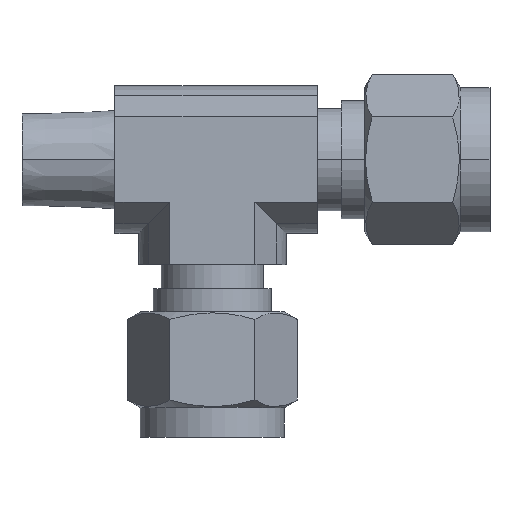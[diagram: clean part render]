
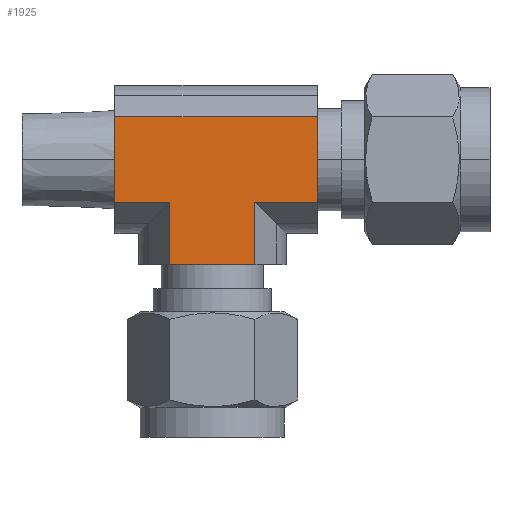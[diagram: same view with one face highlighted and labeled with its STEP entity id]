
A CAD part, top view. The second image highlights one B-rep face of the part: STEP entity #1925.
In plain terms, the highlighted planar face has unit normal (0, 0, 1).
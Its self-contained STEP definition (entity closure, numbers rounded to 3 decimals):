
#139 = CARTESIAN_POINT ( 'NONE',  ( 4.59, -4.59, 7.95 ) ) ;
#209 = CARTESIAN_POINT ( 'NONE',  ( 11.3, 4.59, 7.95 ) ) ;
#305 = CARTESIAN_POINT ( 'NONE',  ( -10.5, -4.59, 7.95 ) ) ;
#327 = CARTESIAN_POINT ( 'NONE',  ( 11.3, -4.59, 7.95 ) ) ;
#328 = DIRECTION ( 'NONE',  ( 0., -1., 0. ) ) ;
#329 = VECTOR ( 'NONE', #328, 1000. ) ;
#330 = CARTESIAN_POINT ( 'NONE',  ( 11.3, 4.59, 7.95 ) ) ;
#331 = LINE ( 'NONE', #330, #329 ) ;
#337 = CARTESIAN_POINT ( 'NONE',  ( -10.5, 4.59, 7.95 ) ) ;
#338 = DIRECTION ( 'NONE',  ( 0., 1., 0. ) ) ;
#339 = VECTOR ( 'NONE', #338, 1000. ) ;
#340 = CARTESIAN_POINT ( 'NONE',  ( -10.5, -4.59, 7.95 ) ) ;
#341 = LINE ( 'NONE', #340, #339 ) ;
#451 = CARTESIAN_POINT ( 'NONE',  ( -4.59, -11.3, 7.95 ) ) ;
#453 = DIRECTION ( 'NONE',  ( -1., 0., 0. ) ) ;
#454 = VECTOR ( 'NONE', #453, 1000. ) ;
#455 = CARTESIAN_POINT ( 'NONE',  ( 4.59, -11.3, 7.95 ) ) ;
#459 = LINE ( 'NONE', #455, #454 ) ;
#464 = DIRECTION ( 'NONE',  ( -1., 0., 0. ) ) ;
#465 = VECTOR ( 'NONE', #464, 1000. ) ;
#466 = CARTESIAN_POINT ( 'NONE',  ( 11.3, -4.59, 7.95 ) ) ;
#467 = LINE ( 'NONE', #466, #465 ) ;
#469 = CARTESIAN_POINT ( 'NONE',  ( -4.59, -4.59, 7.95 ) ) ;
#480 = DIRECTION ( 'NONE',  ( -1., 0., 0. ) ) ;
#481 = VECTOR ( 'NONE', #480, 1000. ) ;
#482 = CARTESIAN_POINT ( 'NONE',  ( 11.3, -4.59, 7.95 ) ) ;
#483 = LINE ( 'NONE', #482, #481 ) ;
#521 = CARTESIAN_POINT ( 'NONE',  ( 4.59, -11.3, 7.95 ) ) ;
#719 = DIRECTION ( 'NONE',  ( 0., 1., 0. ) ) ;
#720 = DIRECTION ( 'NONE',  ( 0., 0., -1. ) ) ;
#732 = DIRECTION ( 'NONE',  ( -1., 0., 0. ) ) ;
#733 = VECTOR ( 'NONE', #732, 1000. ) ;
#734 = CARTESIAN_POINT ( 'NONE',  ( 11.3, 4.59, 7.95 ) ) ;
#735 = LINE ( 'NONE', #734, #733 ) ;
#740 = DIRECTION ( 'NONE',  ( 0., 1., 0. ) ) ;
#741 = VECTOR ( 'NONE', #740, 1000. ) ;
#742 = CARTESIAN_POINT ( 'NONE',  ( -4.59, -11.3, 7.95 ) ) ;
#743 = LINE ( 'NONE', #742, #741 ) ;
#847 = CARTESIAN_POINT ( 'NONE',  ( 11.3, 4.59, 7.95 ) ) ;
#848 = PLANE ( 'NONE',  #849 ) ;
#849 = AXIS2_PLACEMENT_3D ( 'NONE', #847, #720, #719 ) ;
#850 = FACE_OUTER_BOUND ( 'NONE', #1926, .T. ) ;
#941 = DIRECTION ( 'NONE',  ( 0., 1., 0. ) ) ;
#942 = VECTOR ( 'NONE', #941, 1000. ) ;
#943 = CARTESIAN_POINT ( 'NONE',  ( 4.59, -11.3, 7.95 ) ) ;
#944 = LINE ( 'NONE', #943, #942 ) ;
#1553 = VERTEX_POINT ( 'NONE', #139 ) ;
#1655 = EDGE_CURVE ( 'NONE', #1741, #1656, #341, .T. ) ;
#1656 = VERTEX_POINT ( 'NONE', #337 ) ;
#1663 = EDGE_CURVE ( 'NONE', #1733, #1664, #331, .T. ) ;
#1664 = VERTEX_POINT ( 'NONE', #327 ) ;
#1733 = VERTEX_POINT ( 'NONE', #209 ) ;
#1741 = VERTEX_POINT ( 'NONE', #305 ) ;
#1795 = EDGE_CURVE ( 'NONE', #1664, #1553, #483, .T. ) ;
#1800 = VERTEX_POINT ( 'NONE', #469 ) ;
#1803 = EDGE_CURVE ( 'NONE', #1800, #1741, #467, .T. ) ;
#1805 = EDGE_CURVE ( 'NONE', #1816, #1807, #459, .T. ) ;
#1807 = VERTEX_POINT ( 'NONE', #451 ) ;
#1816 = VERTEX_POINT ( 'NONE', #521 ) ;
#1923 = EDGE_CURVE ( 'NONE', #1733, #1656, #735, .T. ) ;
#1925 = ADVANCED_FACE ( 'NONE', ( #850 ), #848, .F. ) ;
#1926 = EDGE_LOOP ( 'NONE', ( #2055, #2056, #2058, #2059, #2100, #2101, #2102, #2048 ) ) ;
#2048 = ORIENTED_EDGE ( 'NONE', *, *, #1655, .F. ) ;
#2055 = ORIENTED_EDGE ( 'NONE', *, *, #1803, .F. ) ;
#2056 = ORIENTED_EDGE ( 'NONE', *, *, #2057, .F. ) ;
#2057 = EDGE_CURVE ( 'NONE', #1807, #1800, #743, .T. ) ;
#2058 = ORIENTED_EDGE ( 'NONE', *, *, #1805, .F. ) ;
#2059 = ORIENTED_EDGE ( 'NONE', *, *, #2099, .T. ) ;
#2099 = EDGE_CURVE ( 'NONE', #1816, #1553, #944, .T. ) ;
#2100 = ORIENTED_EDGE ( 'NONE', *, *, #1795, .F. ) ;
#2101 = ORIENTED_EDGE ( 'NONE', *, *, #1663, .F. ) ;
#2102 = ORIENTED_EDGE ( 'NONE', *, *, #1923, .T. ) ;
